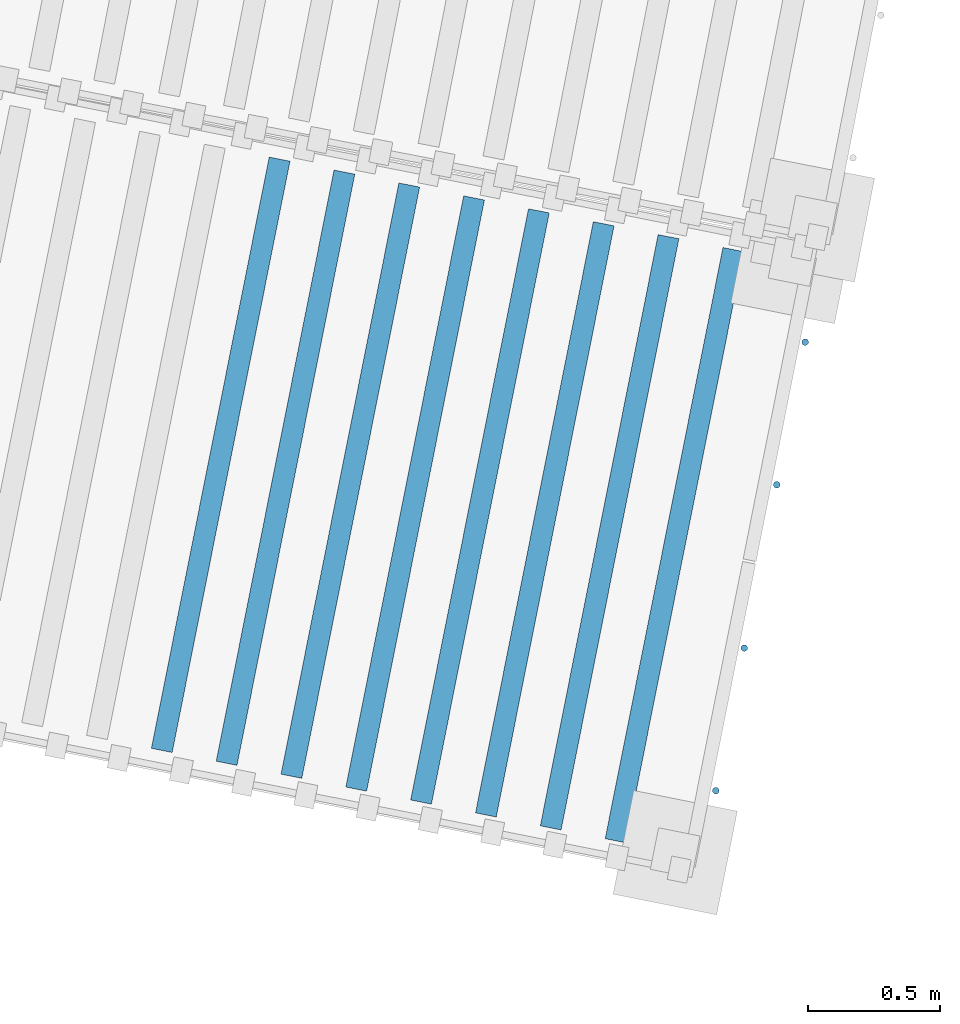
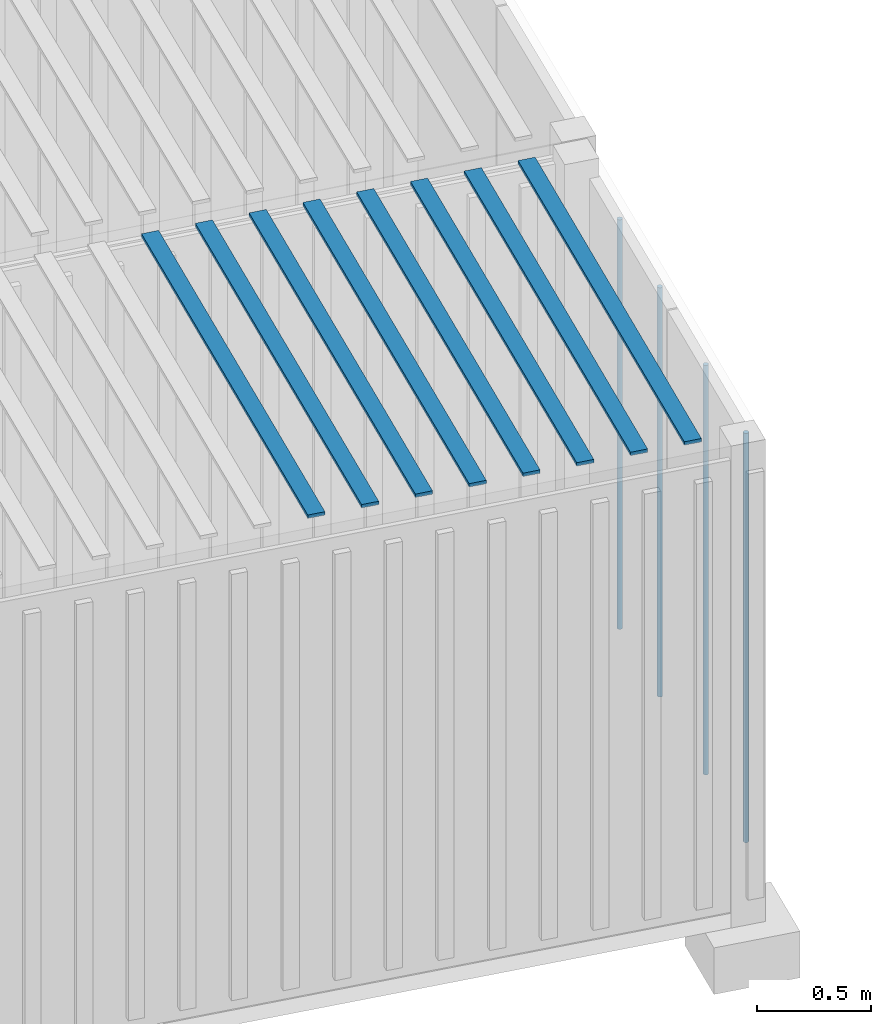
# One storey, part 27 of 142: 12 members, 1 element without a shape of its own.
"""IFC4 building model written with IfcOpenShell, lengths in metres."""

from ifc_helpers import new_model, si_unit, direction, frame, origin_with_axes, place, context, subcontext, project, spatial, polyline, circle, outline, extrude, material, material_profile, profile_set, profile_usage, type_object, element, aggregate, save


model = new_model("IFC4")

# Units and contexts
model_context = context("Model", 3, precision=1e-05, world=origin_with_axes(), true_north=direction((0.0, 1.0)))
body_context = subcontext(model_context, "Body", "Model", "MODEL_VIEW")
ifc_project = project(units=[si_unit("AREAUNIT", "SQUARE_METRE"), si_unit("VOLUMEUNIT", "CUBIC_METRE"), si_unit("LENGTHUNIT", "METRE")], contexts=[model_context])

# Site, building, storey
site_placement = place(None, origin_with_axes())
site = spatial("IfcSite", under=ifc_project, at=site_placement, Name="Lares · Rua das Mercês · artigo 4771")
building_placement = place(site_placement, frame((15.0, 9.7, 14.65), z_axis=(0.0, 0.0, 1.0), x_axis=(0.989015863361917, -0.147809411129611, 0.0)))
building = spatial("IfcBuilding", under=site, at=building_placement, Name="Casa Sobreposta")
storey_placement = place(building_placement, origin_with_axes())
storey = spatial("IfcBuildingStorey", under=building, at=storey_placement, Name="00 · Habitação e estacionamento", Elevation=14.65)

# Assembly, members
assembly_placement = place(storey_placement, frame((-14.5932944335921, 6.63122214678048, 0.0), z_axis=(0.0, 0.0, 1.0), x_axis=(0.998832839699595, -0.0483007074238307, 0.0)))
assembly = element("IfcElementAssembly", 1, at=assembly_placement, inside=storey, Name="Contentor existente 2 · 6 m", ObjectType="EXISTING_SHIPPING_CONTAINER", PredefinedType="USERDEFINED")
ifc_material_1 = material(Name="Aço galvanizado / Stahl verzinkt", Category="steel")
ifc_material_profile = material_profile(ifc_material_1, circle(Radius=0.0125))
ifc_profile_set = profile_set([ifc_material_profile], Name="D0.025")
ifc_profile_usage_1 = profile_usage(ifc_profile_set)
member_type = type_object("IfcMemberType", Name="D0.025 / galvanized", PredefinedType="NOTDEFINED", material=ifc_profile_set)
member_1_placement = place(assembly_placement, frame((6.025, 0.34, -1.1), z_axis=(0.0, 0.0, 1.0), x_axis=(1.0, 0.0, 0.0)))
member_1 = element("IfcMember", 2, at=member_1_placement, type_object=member_type, material=ifc_profile_usage_1, Name="Contentor · varão de fecho", context=body_context, shape_type="SweptSolid", body=[
    extrude(circle(Radius=0.0125), origin_with_axes(), (0.0, 0.0, 1.0), 2.2),
])
ifc_profile_usage_2 = profile_usage(ifc_profile_set)
member_2_placement = place(assembly_placement, frame((6.025, 0.89, -1.1), z_axis=(0.0, 0.0, 1.0), x_axis=(1.0, 0.0, 0.0)))
member_2 = element("IfcMember", 3, at=member_2_placement, type_object=member_type, material=ifc_profile_usage_2, Name="Contentor · varão de fecho", context=body_context, shape_type="SweptSolid", body=[
    extrude(circle(Radius=0.0125), origin_with_axes(), (0.0, 0.0, 1.0), 2.2),
])
ifc_profile_usage_3 = profile_usage(ifc_profile_set)
member_3_placement = place(assembly_placement, frame((6.025, 1.52, -1.1), z_axis=(0.0, 0.0, 1.0), x_axis=(1.0, 0.0, 0.0)))
member_3 = element("IfcMember", 4, at=member_3_placement, type_object=member_type, material=ifc_profile_usage_3, Name="Contentor · varão de fecho", context=body_context, shape_type="SweptSolid", body=[
    extrude(circle(Radius=0.0125), origin_with_axes(), (0.0, 0.0, 1.0), 2.2),
])
ifc_profile_usage_4 = profile_usage(ifc_profile_set)
member_4_placement = place(assembly_placement, frame((6.025, 2.07, -1.1), z_axis=(0.0, 0.0, 1.0), x_axis=(1.0, 0.0, 0.0)))
member_4 = element("IfcMember", 5, at=member_4_placement, type_object=member_type, material=ifc_profile_usage_4, Name="Contentor · varão de fecho", context=body_context, shape_type="SweptSolid", body=[
    extrude(circle(Radius=0.0125), origin_with_axes(), (0.0, 0.0, 1.0), 2.2),
])
ifc_material_2 = material(Name="Contentor · pintura 2", Category="steel")
member_5_placement = place(assembly_placement, frame((0.0, 0.0, 1.285), z_axis=(0.0, 0.0, 1.0), x_axis=(1.0, 0.0, 0.0)))
member_5 = element("IfcMember", 6, at=member_5_placement, material=ifc_material_2, Name="Contentor · nervura cobertura", context=body_context, shape_type="SweptSolid", body=[
    extrude(outline(polyline([(3.98, 0.08), (3.98, 2.36), (3.9, 2.36), (3.9, 0.08), (3.98, 0.08)])), origin_with_axes(), (0.0, 0.0, 1.0), 0.018),
])
member_6_placement = place(assembly_placement, frame((0.0, 0.0, 1.285), z_axis=(0.0, 0.0, 1.0), x_axis=(1.0, 0.0, 0.0)))
member_6 = element("IfcMember", 7, at=member_6_placement, material=ifc_material_2, Name="Contentor · nervura cobertura", context=body_context, shape_type="SweptSolid", body=[
    extrude(outline(polyline([(4.23, 0.08), (4.23, 2.36), (4.15, 2.36), (4.15, 0.08), (4.23, 0.08)])), origin_with_axes(), (0.0, 0.0, 1.0), 0.018),
])
member_7_placement = place(assembly_placement, frame((0.0, 0.0, 1.285), z_axis=(0.0, 0.0, 1.0), x_axis=(1.0, 0.0, 0.0)))
member_7 = element("IfcMember", 8, at=member_7_placement, material=ifc_material_2, Name="Contentor · nervura cobertura", context=body_context, shape_type="SweptSolid", body=[
    extrude(outline(polyline([(4.48, 0.08), (4.48, 2.36), (4.4, 2.36), (4.4, 0.08), (4.48, 0.08)])), origin_with_axes(), (0.0, 0.0, 1.0), 0.018),
])
member_8_placement = place(assembly_placement, frame((0.0, 0.0, 1.285), z_axis=(0.0, 0.0, 1.0), x_axis=(1.0, 0.0, 0.0)))
member_8 = element("IfcMember", 9, at=member_8_placement, material=ifc_material_2, Name="Contentor · nervura cobertura", context=body_context, shape_type="SweptSolid", body=[
    extrude(outline(polyline([(4.73, 0.08), (4.73, 2.36), (4.65, 2.36), (4.65, 0.08), (4.73, 0.08)])), origin_with_axes(), (0.0, 0.0, 1.0), 0.018),
])
member_9_placement = place(assembly_placement, frame((0.0, 0.0, 1.285), z_axis=(0.0, 0.0, 1.0), x_axis=(1.0, 0.0, 0.0)))
member_9 = element("IfcMember", 10, at=member_9_placement, material=ifc_material_2, Name="Contentor · nervura cobertura", context=body_context, shape_type="SweptSolid", body=[
    extrude(outline(polyline([(4.98, 0.08), (4.98, 2.36), (4.9, 2.36), (4.9, 0.08), (4.98, 0.08)])), origin_with_axes(), (0.0, 0.0, 1.0), 0.018),
])
member_10_placement = place(assembly_placement, frame((0.0, 0.0, 1.285), z_axis=(0.0, 0.0, 1.0), x_axis=(1.0, 0.0, 0.0)))
member_10 = element("IfcMember", 11, at=member_10_placement, material=ifc_material_2, Name="Contentor · nervura cobertura", context=body_context, shape_type="SweptSolid", body=[
    extrude(outline(polyline([(5.23, 0.08), (5.23, 2.36), (5.15, 2.36), (5.15, 0.08), (5.23, 0.08)])), origin_with_axes(), (0.0, 0.0, 1.0), 0.018),
])
member_11_placement = place(assembly_placement, frame((0.0, 0.0, 1.285), z_axis=(0.0, 0.0, 1.0), x_axis=(1.0, 0.0, 0.0)))
member_11 = element("IfcMember", 12, at=member_11_placement, material=ifc_material_2, Name="Contentor · nervura cobertura", context=body_context, shape_type="SweptSolid", body=[
    extrude(outline(polyline([(5.48, 0.08), (5.48, 2.36), (5.4, 2.36), (5.4, 0.08), (5.48, 0.08)])), origin_with_axes(), (0.0, 0.0, 1.0), 0.018),
])
member_12_placement = place(assembly_placement, frame((0.0, 0.0, 1.285), z_axis=(0.0, 0.0, 1.0), x_axis=(1.0, 0.0, 0.0)))
member_12 = element("IfcMember", 13, at=member_12_placement, material=ifc_material_2, Name="Contentor · nervura cobertura", context=body_context, shape_type="SweptSolid", body=[
    extrude(outline(polyline([(5.73, 0.08), (5.73, 2.36), (5.65, 2.36), (5.65, 0.08), (5.73, 0.08)])), origin_with_axes(), (0.0, 0.0, 1.0), 0.018),
])
aggregate(assembly, [member_1, member_2, member_3, member_4, member_5, member_6, member_7, member_8, member_9, member_10, member_11, member_12])

save(model, "model.ifc")
